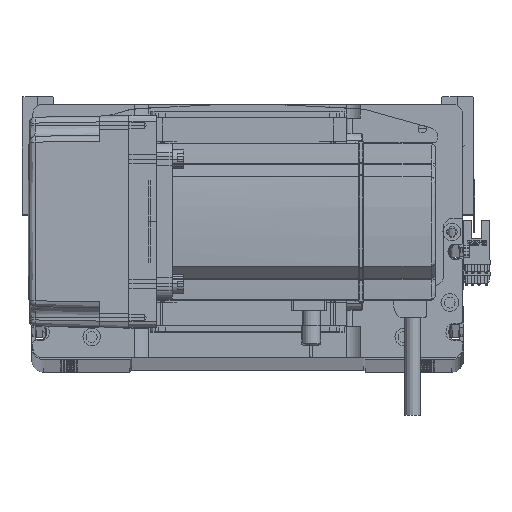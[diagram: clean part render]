
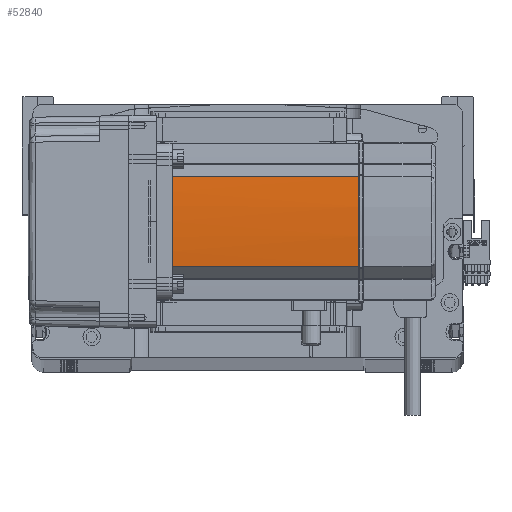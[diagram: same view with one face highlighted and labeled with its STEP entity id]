
A CAD part, top view. The second image highlights one B-rep face of the part: STEP entity #52840.
In plain terms, the highlighted cylindrical face has radius 270 mm (diameter 540 mm), a partial arc.
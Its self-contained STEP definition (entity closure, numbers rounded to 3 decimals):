
#1420 = CARTESIAN_POINT ( 'NONE',  ( 40., -0.127, 134. ) ) ;
#2231 = AXIS2_PLACEMENT_3D ( 'NONE', #6223, #14895, #33781 ) ;
#3644 = ORIENTED_EDGE ( 'NONE', *, *, #49193, .F. ) ;
#3746 = FACE_OUTER_BOUND ( 'NONE', #39449, .T. ) ;
#3910 = LINE ( 'NONE', #22297, #12009 ) ;
#5988 = CARTESIAN_POINT ( 'NONE',  ( 39.042, 22.724, 58. ) ) ;
#6223 = CARTESIAN_POINT ( 'NONE',  ( -230., 0., 134. ) ) ;
#6606 = CYLINDRICAL_SURFACE ( 'NONE', #49489, 270. ) ;
#6688 = CARTESIAN_POINT ( 'NONE',  ( 39.042, -22.724, 39. ) ) ;
#6990 = CIRCLE ( 'NONE', #21559, 270. ) ;
#8790 = CARTESIAN_POINT ( 'NONE',  ( 40., -0.042, 134. ) ) ;
#11448 = CARTESIAN_POINT ( 'NONE',  ( 39.042, 22.724, 134. ) ) ;
#12009 = VECTOR ( 'NONE', #12823, 1000. ) ;
#12337 = VERTEX_POINT ( 'NONE', #57537 ) ;
#12823 = DIRECTION ( 'NONE',  ( 0., 0., -1. ) ) ;
#14895 = DIRECTION ( 'NONE',  ( 0., 0., -1. ) ) ;
#15130 = ORIENTED_EDGE ( 'NONE', *, *, #57347, .F. ) ;
#15898 = DIRECTION ( 'NONE',  ( -1., 0., 0. ) ) ;
#17457 = CARTESIAN_POINT ( 'NONE',  ( 40., 0.042, 134. ) ) ;
#18072 = CARTESIAN_POINT ( 'NONE',  ( 40., -0.127, 134. ) ) ;
#19361 = CARTESIAN_POINT ( 'NONE',  ( -230., 0., 39. ) ) ;
#20371 = CARTESIAN_POINT ( 'NONE',  ( -230., 0., 134. ) ) ;
#20400 = EDGE_CURVE ( 'NONE', #12337, #43248, #35851, .T. ) ;
#21559 = AXIS2_PLACEMENT_3D ( 'NONE', #20371, #53429, #33888 ) ;
#22297 = CARTESIAN_POINT ( 'NONE',  ( 39.042, -22.724, 58. ) ) ;
#23938 = VERTEX_POINT ( 'NONE', #43112 ) ;
#24522 = DIRECTION ( 'NONE',  ( -1., 0., 0. ) ) ;
#26925 = VERTEX_POINT ( 'NONE', #1420 ) ;
#27082 = CARTESIAN_POINT ( 'NONE',  ( 40., 0.127, 134. ) ) ;
#29908 = CARTESIAN_POINT ( 'NONE',  ( -230., 0., 58. ) ) ;
#32572 = ORIENTED_EDGE ( 'NONE', *, *, #51347, .T. ) ;
#32616 = B_SPLINE_CURVE_WITH_KNOTS ( 'NONE', 3,
 ( #18072, #8790, #17457, #50308 ),
 .UNSPECIFIED., .F., .F.,
 ( 4, 4 ),
 ( 0., 1. ),
 .UNSPECIFIED. ) ;
#33781 = DIRECTION ( 'NONE',  ( -1., 0., 0. ) ) ;
#33888 = DIRECTION ( 'NONE',  ( -1., 0., 0. ) ) ;
#34565 = DIRECTION ( 'NONE',  ( 0., 0., -1. ) ) ;
#35324 = EDGE_CURVE ( 'NONE', #23938, #39466, #3910, .T. ) ;
#35851 = LINE ( 'NONE', #5988, #47564 ) ;
#38271 = CIRCLE ( 'NONE', #2231, 270. ) ;
#39449 = EDGE_LOOP ( 'NONE', ( #59861, #3644, #53553, #32572, #15130, #46848 ) ) ;
#39466 = VERTEX_POINT ( 'NONE', #6688 ) ;
#39476 = AXIS2_PLACEMENT_3D ( 'NONE', #19361, #52640, #24522 ) ;
#43112 = CARTESIAN_POINT ( 'NONE',  ( 39.042, -22.724, 134. ) ) ;
#43248 = VERTEX_POINT ( 'NONE', #11448 ) ;
#43577 = DIRECTION ( 'NONE',  ( 0., 0., 1. ) ) ;
#46848 = ORIENTED_EDGE ( 'NONE', *, *, #52749, .T. ) ;
#47564 = VECTOR ( 'NONE', #43577, 1000. ) ;
#49193 = EDGE_CURVE ( 'NONE', #12337, #39466, #60180, .T. ) ;
#49489 = AXIS2_PLACEMENT_3D ( 'NONE', #29908, #34565, #15898 ) ;
#50308 = CARTESIAN_POINT ( 'NONE',  ( 40., 0.127, 134. ) ) ;
#51347 = EDGE_CURVE ( 'NONE', #43248, #57718, #6990, .T. ) ;
#52640 = DIRECTION ( 'NONE',  ( 0., 0., -1. ) ) ;
#52749 = EDGE_CURVE ( 'NONE', #26925, #23938, #38271, .T. ) ;
#52840 = ADVANCED_FACE ( 'NONE', ( #3746 ), #6606, .T. ) ;
#53429 = DIRECTION ( 'NONE',  ( 0., 0., -1. ) ) ;
#53553 = ORIENTED_EDGE ( 'NONE', *, *, #20400, .T. ) ;
#57347 = EDGE_CURVE ( 'NONE', #26925, #57718, #32616, .T. ) ;
#57537 = CARTESIAN_POINT ( 'NONE',  ( 39.042, 22.724, 39. ) ) ;
#57718 = VERTEX_POINT ( 'NONE', #27082 ) ;
#59861 = ORIENTED_EDGE ( 'NONE', *, *, #35324, .T. ) ;
#60180 = CIRCLE ( 'NONE', #39476, 270. ) ;
